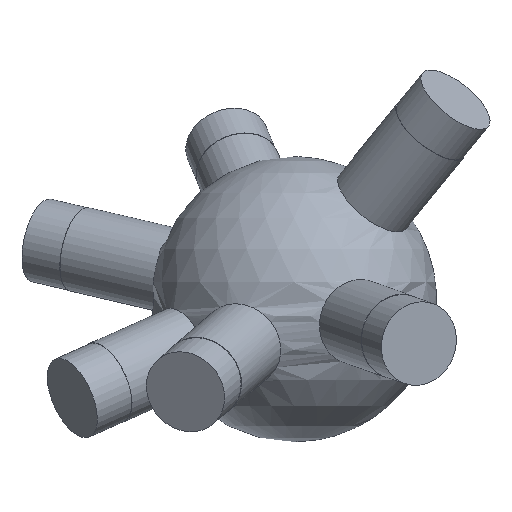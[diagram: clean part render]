
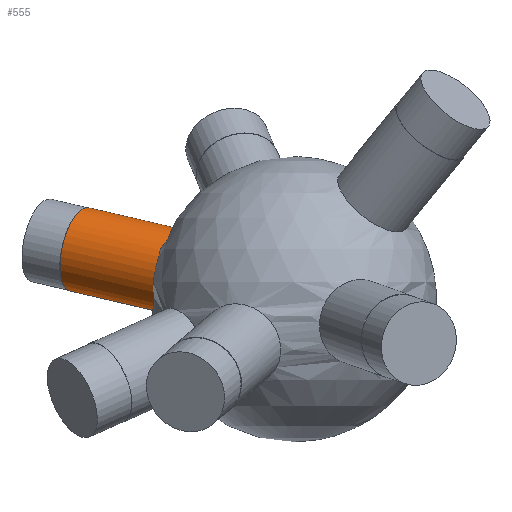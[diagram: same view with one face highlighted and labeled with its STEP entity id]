
A CAD part, front view. The second image highlights one B-rep face of the part: STEP entity #555.
In plain terms, the highlighted cylindrical face has radius 6 mm (diameter 12 mm), a full revolution.
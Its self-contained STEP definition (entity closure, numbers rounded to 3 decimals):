
#25 = EDGE_CURVE('',#26,#26,#28,.T.);
#26 = VERTEX_POINT('',#27);
#27 = CARTESIAN_POINT('',(-19.465,2.355,3.944)
  );
#28 = SURFACE_CURVE('',#29,(#34,#101),.PCURVE_S1.);
#29 = CIRCLE('',#30,6.);
#30 = AXIS2_PLACEMENT_3D('',#31,#32,#33);
#31 = CARTESIAN_POINT('',(-16.956,7.806,3.944)
  );
#32 = DIRECTION('',(-0.889,0.409,0.207));
#33 = DIRECTION('',(-0.418,-0.908,0.));
#34 = PCURVE('',#35,#40);
#35 = SPHERICAL_SURFACE('',#36,20.);
#36 = AXIS2_PLACEMENT_3D('',#37,#38,#39);
#37 = CARTESIAN_POINT('',(0.,0.,0.));
#38 = DIRECTION('',(0.,0.,1.));
#39 = DIRECTION('',(1.,0.,-0.));
#40 = DEFINITIONAL_REPRESENTATION('',(#41),#100);
#41 = B_SPLINE_CURVE_WITH_KNOTS('',8,(#42,#43,#44,#45,#46,#47,#48,#49,
    #50,#51,#52,#53,#54,#55,#56,#57,#58,#59,#60,#61,#62,#63,#64,#65,#66,
    #67,#68,#69,#70,#71,#72,#73,#74,#75,#76,#77,#78,#79,#80,#81,#82,#83,
    #84,#85,#86,#87,#88,#89,#90,#91,#92,#93,#94,#95,#96,#97,#98,#99),
  .UNSPECIFIED.,.F.,.F.,(9,7,7,7,7,7,7,7,9),(0.,0.785,
    1.473,2.074,3.126,3.915,
    4.507,5.395,6.283),.UNSPECIFIED.);
#42 = CARTESIAN_POINT('',(3.021,0.199));
#43 = CARTESIAN_POINT('',(3.023,0.228));
#44 = CARTESIAN_POINT('',(3.022,0.258));
#45 = CARTESIAN_POINT('',(3.017,0.287));
#46 = CARTESIAN_POINT('',(3.009,0.316));
#47 = CARTESIAN_POINT('',(2.998,0.344));
#48 = CARTESIAN_POINT('',(2.983,0.37));
#49 = CARTESIAN_POINT('',(2.965,0.394));
#50 = CARTESIAN_POINT('',(2.926,0.436));
#51 = CARTESIAN_POINT('',(2.905,0.454));
#52 = CARTESIAN_POINT('',(2.882,0.47));
#53 = CARTESIAN_POINT('',(2.857,0.483));
#54 = CARTESIAN_POINT('',(2.83,0.494));
#55 = CARTESIAN_POINT('',(2.802,0.503));
#56 = CARTESIAN_POINT('',(2.773,0.508));
#57 = CARTESIAN_POINT('',(2.718,0.514));
#58 = CARTESIAN_POINT('',(2.692,0.514));
#59 = CARTESIAN_POINT('',(2.666,0.512));
#60 = CARTESIAN_POINT('',(2.64,0.508));
#61 = CARTESIAN_POINT('',(2.615,0.502));
#62 = CARTESIAN_POINT('',(2.591,0.494));
#63 = CARTESIAN_POINT('',(2.569,0.484));
#64 = CARTESIAN_POINT('',(2.509,0.451));
#65 = CARTESIAN_POINT('',(2.476,0.424));
#66 = CARTESIAN_POINT('',(2.448,0.393));
#67 = CARTESIAN_POINT('',(2.426,0.359));
#68 = CARTESIAN_POINT('',(2.41,0.321));
#69 = CARTESIAN_POINT('',(2.401,0.282));
#70 = CARTESIAN_POINT('',(2.397,0.243));
#71 = CARTESIAN_POINT('',(2.4,0.174));
#72 = CARTESIAN_POINT('',(2.405,0.144));
#73 = CARTESIAN_POINT('',(2.413,0.115));
#74 = CARTESIAN_POINT('',(2.424,0.087));
#75 = CARTESIAN_POINT('',(2.437,0.061));
#76 = CARTESIAN_POINT('',(2.454,0.036));
#77 = CARTESIAN_POINT('',(2.473,0.013));
#78 = CARTESIAN_POINT('',(2.51,-0.023));
#79 = CARTESIAN_POINT('',(2.527,-0.038));
#80 = CARTESIAN_POINT('',(2.545,-0.051));
#81 = CARTESIAN_POINT('',(2.564,-0.062));
#82 = CARTESIAN_POINT('',(2.585,-0.072));
#83 = CARTESIAN_POINT('',(2.606,-0.08));
#84 = CARTESIAN_POINT('',(2.627,-0.086));
#85 = CARTESIAN_POINT('',(2.682,-0.097));
#86 = CARTESIAN_POINT('',(2.715,-0.1));
#87 = CARTESIAN_POINT('',(2.749,-0.098));
#88 = CARTESIAN_POINT('',(2.783,-0.092));
#89 = CARTESIAN_POINT('',(2.815,-0.082));
#90 = CARTESIAN_POINT('',(2.846,-0.068));
#91 = CARTESIAN_POINT('',(2.875,-0.051));
#92 = CARTESIAN_POINT('',(2.927,-0.01));
#93 = CARTESIAN_POINT('',(2.951,0.014));
#94 = CARTESIAN_POINT('',(2.971,0.04));
#95 = CARTESIAN_POINT('',(2.989,0.069));
#96 = CARTESIAN_POINT('',(3.003,0.1));
#97 = CARTESIAN_POINT('',(3.013,0.132));
#98 = CARTESIAN_POINT('',(3.019,0.165));
#99 = CARTESIAN_POINT('',(3.021,0.199));
#100 = ( GEOMETRIC_REPRESENTATION_CONTEXT(2) 
PARAMETRIC_REPRESENTATION_CONTEXT() REPRESENTATION_CONTEXT('2D SPACE',''
  ) );
#101 = PCURVE('',#102,#107);
#102 = CYLINDRICAL_SURFACE('',#103,6.);
#103 = AXIS2_PLACEMENT_3D('',#104,#105,#106);
#104 = CARTESIAN_POINT('',(0.,0.,0.));
#105 = DIRECTION('',(-0.889,0.409,0.207));
#106 = DIRECTION('',(-0.418,-0.908,0.)
  );
#107 = DEFINITIONAL_REPRESENTATION('',(#108),#112);
#108 = LINE('',#109,#110);
#109 = CARTESIAN_POINT('',(0.,19.079));
#110 = VECTOR('',#111,1.);
#111 = DIRECTION('',(1.,0.));
#112 = ( GEOMETRIC_REPRESENTATION_CONTEXT(2) 
PARAMETRIC_REPRESENTATION_CONTEXT() REPRESENTATION_CONTEXT('2D SPACE',''
  ) );
#555 = ADVANCED_FACE('',(#556),#102,.T.);
#556 = FACE_BOUND('',#557,.T.);
#557 = EDGE_LOOP('',(#558,#581,#608,#609));
#558 = ORIENTED_EDGE('',*,*,#559,.T.);
#559 = EDGE_CURVE('',#26,#560,#562,.T.);
#560 = VERTEX_POINT('',#561);
#561 = CARTESIAN_POINT('',(-32.578,8.391,6.994
    ));
#562 = SEAM_CURVE('',#563,(#567,#574),.PCURVE_S1.);
#563 = LINE('',#564,#565);
#564 = CARTESIAN_POINT('',(-2.509,-5.45,
    0.));
#565 = VECTOR('',#566,1.);
#566 = DIRECTION('',(-0.889,0.409,0.207));
#567 = PCURVE('',#102,#568);
#568 = DEFINITIONAL_REPRESENTATION('',(#569),#573);
#569 = LINE('',#570,#571);
#570 = CARTESIAN_POINT('',(6.283,-0.));
#571 = VECTOR('',#572,1.);
#572 = DIRECTION('',(0.,1.));
#573 = ( GEOMETRIC_REPRESENTATION_CONTEXT(2) 
PARAMETRIC_REPRESENTATION_CONTEXT() REPRESENTATION_CONTEXT('2D SPACE',''
  ) );
#574 = PCURVE('',#102,#575);
#575 = DEFINITIONAL_REPRESENTATION('',(#576),#580);
#576 = LINE('',#577,#578);
#577 = CARTESIAN_POINT('',(0.,-0.));
#578 = VECTOR('',#579,1.);
#579 = DIRECTION('',(0.,1.));
#580 = ( GEOMETRIC_REPRESENTATION_CONTEXT(2) 
PARAMETRIC_REPRESENTATION_CONTEXT() REPRESENTATION_CONTEXT('2D SPACE',''
  ) );
#581 = ORIENTED_EDGE('',*,*,#582,.F.);
#582 = EDGE_CURVE('',#560,#560,#583,.T.);
#583 = SURFACE_CURVE('',#584,(#589,#596),.PCURVE_S1.);
#584 = CIRCLE('',#585,6.);
#585 = AXIS2_PLACEMENT_3D('',#586,#587,#588);
#586 = CARTESIAN_POINT('',(-30.069,13.842,
    6.994));
#587 = DIRECTION('',(-0.889,0.409,0.207));
#588 = DIRECTION('',(-0.418,-0.908,0.));
#589 = PCURVE('',#102,#590);
#590 = DEFINITIONAL_REPRESENTATION('',(#591),#595);
#591 = LINE('',#592,#593);
#592 = CARTESIAN_POINT('',(0.,33.833));
#593 = VECTOR('',#594,1.);
#594 = DIRECTION('',(1.,0.));
#595 = ( GEOMETRIC_REPRESENTATION_CONTEXT(2) 
PARAMETRIC_REPRESENTATION_CONTEXT() REPRESENTATION_CONTEXT('2D SPACE',''
  ) );
#596 = PCURVE('',#597,#602);
#597 = PLANE('',#598);
#598 = AXIS2_PLACEMENT_3D('',#599,#600,#601);
#599 = CARTESIAN_POINT('',(-30.069,13.842,
    6.994));
#600 = DIRECTION('',(-0.889,0.409,0.207));
#601 = DIRECTION('',(-0.418,-0.908,0.)
  );
#602 = DEFINITIONAL_REPRESENTATION('',(#603),#607);
#603 = CIRCLE('',#604,6.);
#604 = AXIS2_PLACEMENT_2D('',#605,#606);
#605 = CARTESIAN_POINT('',(0.,0.));
#606 = DIRECTION('',(1.,0.));
#607 = ( GEOMETRIC_REPRESENTATION_CONTEXT(2) 
PARAMETRIC_REPRESENTATION_CONTEXT() REPRESENTATION_CONTEXT('2D SPACE',''
  ) );
#608 = ORIENTED_EDGE('',*,*,#559,.F.);
#609 = ORIENTED_EDGE('',*,*,#25,.T.);
